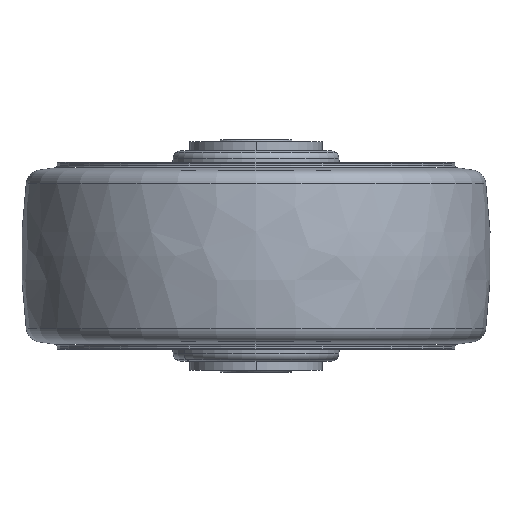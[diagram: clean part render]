
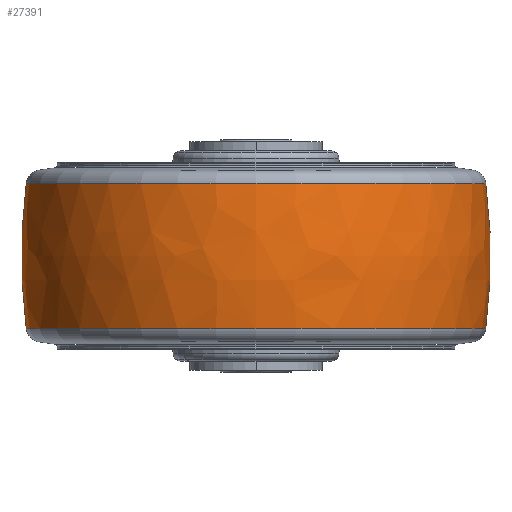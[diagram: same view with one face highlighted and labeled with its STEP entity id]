
A CAD part, left-side view. The second image highlights one B-rep face of the part: STEP entity #27391.
In plain terms, the highlighted free-form (B-spline) face has degree [3, 3] with [7, 4] control points.
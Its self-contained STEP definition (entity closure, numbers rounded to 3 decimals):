
#26735=CARTESIAN_POINT('',(0.,0.,-19.452));
#26736=DIRECTION('',(0.,0.,-1.));
#26737=DIRECTION('',(0.,-1.,0.));
#26738=AXIS2_PLACEMENT_3D('',#26735,#26736,#26737);
#26740=CARTESIAN_POINT('',(0.,0.,19.452));
#26741=DIRECTION('',(0.,0.,-1.));
#26742=DIRECTION('',(0.,-1.,0.));
#26743=AXIS2_PLACEMENT_3D('',#26740,#26741,#26742);
#26755=CARTESIAN_POINT('',(0.,87.5,0.));
#26756=DIRECTION('',(-1.,0.,0.));
#26757=DIRECTION('',(0.,-0.992,-0.13));
#26758=AXIS2_PLACEMENT_3D('',#26755,#26756,#26757);
#26760=CARTESIAN_POINT('',(0.,-87.5,0.));
#26761=DIRECTION('',(1.,0.,0.));
#26762=DIRECTION('',(0.,0.992,-0.13));
#26763=AXIS2_PLACEMENT_3D('',#26760,#26761,#26762);
#26841=CARTESIAN_POINT('',(0.,-61.233,-19.452));
#26842=CARTESIAN_POINT('',(0.,-61.233,19.452));
#26843=VERTEX_POINT('',#26841);
#26844=VERTEX_POINT('',#26842);
#26845=CARTESIAN_POINT('',(0.,61.233,
-19.452));
#26846=CARTESIAN_POINT('',(0.,61.233,
19.452));
#26847=VERTEX_POINT('',#26845);
#26848=VERTEX_POINT('',#26846);
#27353=CARTESIAN_POINT('',(3.838,-61.009,
20.226));
#27354=CARTESIAN_POINT('',(3.953,-62.835,
6.783));
#27355=CARTESIAN_POINT('',(3.953,-62.835,
-6.783));
#27356=CARTESIAN_POINT('',(3.838,-61.009,
-20.226));
#27357=CARTESIAN_POINT('',(-33.707,-63.372,
20.226));
#27358=CARTESIAN_POINT('',(-34.715,-65.268,
6.783));
#27359=CARTESIAN_POINT('',(-34.715,-65.268,
-6.783));
#27360=CARTESIAN_POINT('',(-33.707,-63.372,
-20.226));
#27361=CARTESIAN_POINT('',(-61.13,-37.619,
20.226));
#27362=CARTESIAN_POINT('',(-62.959,-38.745,
6.783));
#27363=CARTESIAN_POINT('',(-62.959,-38.745,
-6.783));
#27364=CARTESIAN_POINT('',(-61.13,-37.619,
-20.226));
#27365=CARTESIAN_POINT('',(-61.13,0.,
20.226));
#27366=CARTESIAN_POINT('',(-62.959,0.,
6.783));
#27367=CARTESIAN_POINT('',(-62.959,0.,-6.783));
#27368=CARTESIAN_POINT('',(-61.13,0.,-20.226));
#27369=CARTESIAN_POINT('',(-61.13,37.619,
20.226));
#27370=CARTESIAN_POINT('',(-62.959,38.745,
6.783));
#27371=CARTESIAN_POINT('',(-62.959,38.745,
-6.783));
#27372=CARTESIAN_POINT('',(-61.13,37.619,
-20.226));
#27373=CARTESIAN_POINT('',(-33.707,63.372,
20.226));
#27374=CARTESIAN_POINT('',(-34.715,65.268,
6.783));
#27375=CARTESIAN_POINT('',(-34.715,65.268,
-6.783));
#27376=CARTESIAN_POINT('',(-33.707,63.372,
-20.226));
#27377=CARTESIAN_POINT('',(3.838,61.009,20.226));
#27378=CARTESIAN_POINT('',(3.953,62.835,6.783));
#27379=CARTESIAN_POINT('',(3.953,62.835,
-6.783));
#27380=CARTESIAN_POINT('',(3.838,61.009,
-20.226));
#27381=(BOUNDED_SURFACE()B_SPLINE_SURFACE(3,3,((#27353,#27354,#27355,#27356),(
#27357,#27358,#27359,#27360),(#27361,#27362,#27363,#27364),(#27365,#27366,
#27367,#27368),(#27369,#27370,#27371,#27372),(#27373,#27374,#27375,#27376),(
#27377,#27378,#27379,#27380)),.UNSPECIFIED.,.F.,.F.,.F.)B_SPLINE_SURFACE_WITH_KNOTS((4,3,4),(4,4),(0.,1.,2.),(0.,1.),.UNSPECIFIED.)GEOMETRIC_REPRESENTATION_ITEM()RATIONAL_B_SPLINE_SURFACE(((1.193,1.185,
1.185,1.193),(0.942,0.936,
0.936,0.942),(0.942,0.936,
0.936,0.942),(1.193,1.185,
1.185,1.193),(0.942,0.936,
0.936,0.942),(0.942,0.936,
0.936,0.942),(1.193,1.185,
1.185,1.193)))REPRESENTATION_ITEM('')SURFACE());
#27383=ORIENTED_EDGE('',*,*,#27382,.F.);
#27384=ORIENTED_EDGE('',*,*,#27339,.T.);
#27386=ORIENTED_EDGE('',*,*,#27385,.T.);
#27388=ORIENTED_EDGE('',*,*,#27387,.F.);
#27389=EDGE_LOOP('',(#27383,#27384,#27386,#27388));
#27390=FACE_OUTER_BOUND('',#27389,.F.);
#26739=CIRCLE('',#26738,61.233);
#26744=CIRCLE('',#26743,61.233);
#26759=CIRCLE('',#26758,150.);
#26764=CIRCLE('',#26763,150.);
#27339=EDGE_CURVE('',#26843,#26847,#26739,.T.);
#27382=EDGE_CURVE('',#26843,#26844,#26759,.T.);
#27385=EDGE_CURVE('',#26847,#26848,#26764,.T.);
#27387=EDGE_CURVE('',#26844,#26848,#26744,.T.);
#27391=ADVANCED_FACE('',(#27390),#27381,.T.);
